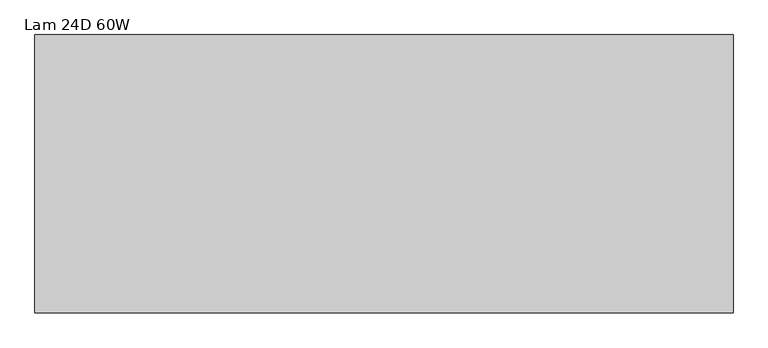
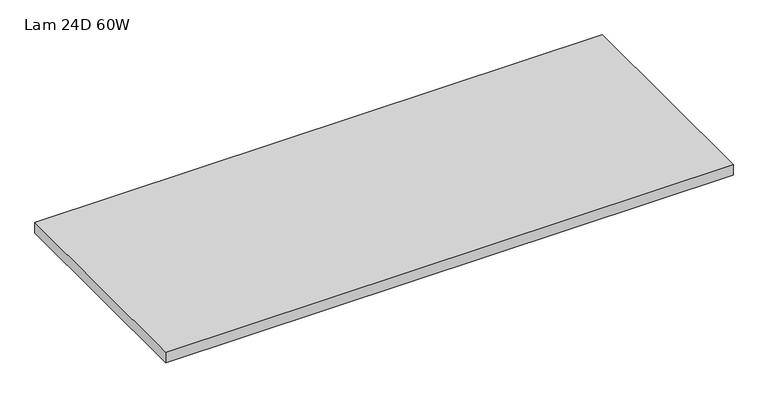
"""IFC4 building model written with IfcOpenShell, lengths in millimetres: furniture geometry, HermanMiller_CoStruc_C4700_RectangularWorkTableSurface : Lam 24D 60W."""

from ifc_helpers import new_model, si_unit, frame, origin, place, context, project, spatial, polyline, outline, extrude, source, transform, mapped, element, save


def lam_24d_60w_6df2385e(model_context):
    return source(origin(), model_context, "Body", "SweptSolid", [
        extrude(outline(polyline([(1371.5999999, -3.0467299), (1371.5999999, -609.6), (-149.2249999, -609.6), (-149.2249999, -3.0467299), (1371.5999999, -3.0467299)])), frame((0.0, 0.0, 884.4045697), z_axis=(0.0, 0.0, 1.0), x_axis=(1.0, 0.0, 0.0)), (0.0, 0.0, 1.0), 29.972),
    ])


if __name__ == "__main__":
    model = new_model("IFC4")
    model_context = context("Model", 3, world=origin())
    ifc_project = project(units=[si_unit("LENGTHUNIT", "METRE", prefix="MILLI")], contexts=[model_context])
    site = spatial("IfcSite", under=ifc_project)
    building = spatial("IfcBuilding", under=site)
    placement = place(None, origin())
    lam_24d_60w_shape = lam_24d_60w_6df2385e(model_context)
    element("IfcFurniture", 1, ObjectType="HermanMiller_CoStruc_C4700_RectangularWorkTableSurface : Lam 24D 60W", at=placement, inside=building, context=model_context, shape_type="MappedRepresentation", body=[
        mapped(lam_24d_60w_shape, transform((0.0, 0.0, 0.0), x_axis=(1.0, 0.0, 0.0), y_axis=(0.0, 1.0, 0.0), z_axis=(0.0, 0.0, 1.0))),
    ])
    save(model, "model.ifc")
